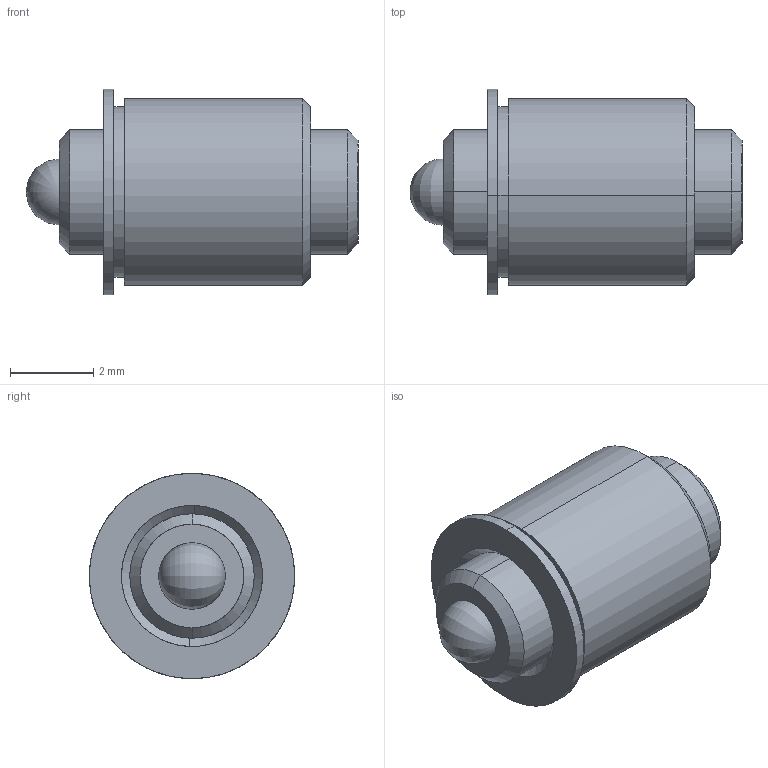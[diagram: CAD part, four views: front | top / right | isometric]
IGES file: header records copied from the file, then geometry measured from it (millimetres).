
Start section: SolidWorks IGES file using analytic representation for surfaces
Global section: file name: C:\Users\workpc\Desktop\KMA Solidworks\TSBM3-25-8_5.IGS; native system: SolidWorks 2013; preprocessor: SolidWorks 2013; author: workpc; date: 130314.155155; units: inch
Bounding box: 8 x 4.95 x 4.95 mm (x, y, z)
Surface area: 193.9 mm2 (no closed solid volume)
Topology: 0 solids, 0 shells, 32 faces, 446 edges, 442 vertices
Faces by surface type: revolution 20, bspline 12
